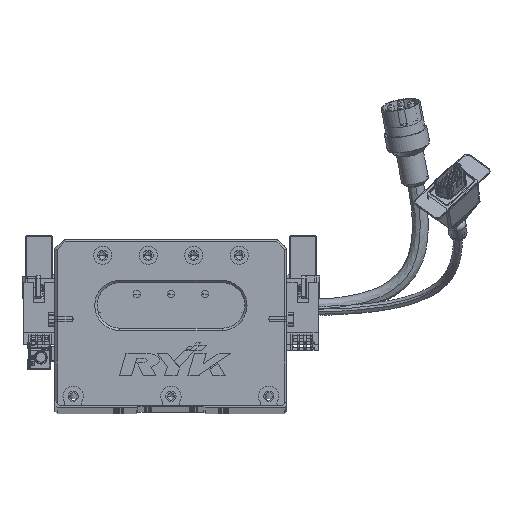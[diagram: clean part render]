
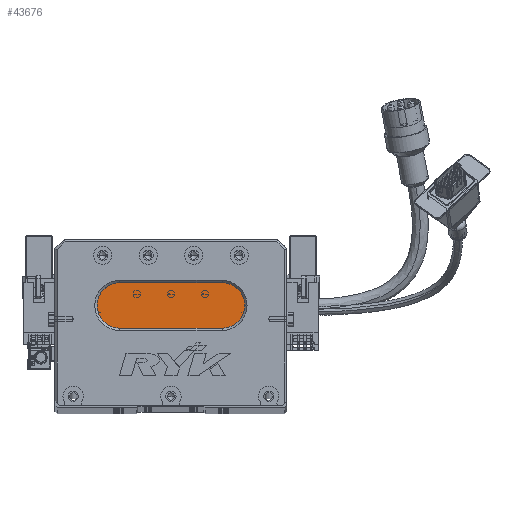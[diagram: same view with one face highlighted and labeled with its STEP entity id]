
A CAD part, top view. The second image highlights one B-rep face of the part: STEP entity #43676.
In plain terms, the highlighted planar face has unit normal (0, 0, 1) as drawn and (0, 0, -1) by its records, which use the part's own axes.
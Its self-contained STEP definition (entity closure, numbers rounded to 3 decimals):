
#57 = DIRECTION ( 'NONE',  ( 0., 0., -1. ) ) ;
#1367 = DIRECTION ( 'NONE',  ( 0., 0., -1. ) ) ;
#2190 = DIRECTION ( 'NONE',  ( 0., 0., -1. ) ) ;
#3152 = CIRCLE ( 'NONE', #38461, 10. ) ;
#3453 = ORIENTED_EDGE ( 'NONE', *, *, #75081, .T. ) ;
#4749 = VERTEX_POINT ( 'NONE', #50511 ) ;
#4889 = CARTESIAN_POINT ( 'NONE',  ( 73.5, 34., 13. ) ) ;
#5317 = LINE ( 'NONE', #4889, #45319 ) ;
#6122 = CARTESIAN_POINT ( 'NONE',  ( 73.5, 44., 13. ) ) ;
#8084 = EDGE_CURVE ( 'NONE', #13516, #59550, #60887, .T. ) ;
#10746 = VECTOR ( 'NONE', #66909, 1000. ) ;
#13382 = DIRECTION ( 'NONE',  ( -1., 0., 0. ) ) ;
#13516 = VERTEX_POINT ( 'NONE', #51976 ) ;
#14069 = FACE_OUTER_BOUND ( 'NONE', #58029, .T. ) ;
#15427 = CARTESIAN_POINT ( 'NONE',  ( 73.5, 54., 13. ) ) ;
#21553 = CARTESIAN_POINT ( 'NONE',  ( 73.5, 34., 13. ) ) ;
#22433 = ORIENTED_EDGE ( 'NONE', *, *, #8084, .T. ) ;
#26677 = EDGE_CURVE ( 'NONE', #61990, #69556, #66296, .T. ) ;
#26940 = AXIS2_PLACEMENT_3D ( 'NONE', #39680, #39936, #51395 ) ;
#30089 = CARTESIAN_POINT ( 'NONE',  ( 28.5, 44., 13. ) ) ;
#35068 = DIRECTION ( 'NONE',  ( -1., 0., 0. ) ) ;
#38461 = AXIS2_PLACEMENT_3D ( 'NONE', #30089, #1367, #71674 ) ;
#39680 = CARTESIAN_POINT ( 'NONE',  ( 28.5, 44., 13. ) ) ;
#39936 = DIRECTION ( 'NONE',  ( 0., 0., -1. ) ) ;
#42549 = CARTESIAN_POINT ( 'NONE',  ( 73.5, 44., 13. ) ) ;
#43676 = ADVANCED_FACE ( 'NONE', ( #14069 ), #54002, .T. ) ;
#45319 = VECTOR ( 'NONE', #50891, 1000. ) ;
#50511 = CARTESIAN_POINT ( 'NONE',  ( 28.5, 34., 13. ) ) ;
#50891 = DIRECTION ( 'NONE',  ( -1., 0., 0. ) ) ;
#51395 = DIRECTION ( 'NONE',  ( -1., 0., 0. ) ) ;
#51976 = CARTESIAN_POINT ( 'NONE',  ( 73.5, 54., 13. ) ) ;
#53187 = CARTESIAN_POINT ( 'NONE',  ( 28.5, 54., 13. ) ) ;
#54002 = PLANE ( 'NONE',  #65220 ) ;
#57979 = ORIENTED_EDGE ( 'NONE', *, *, #74673, .T. ) ;
#58029 = EDGE_LOOP ( 'NONE', ( #22433, #57979, #61758, #67826, #3453 ) ) ;
#59550 = VERTEX_POINT ( 'NONE', #21553 ) ;
#60887 = CIRCLE ( 'NONE', #65249, 10. ) ;
#61758 = ORIENTED_EDGE ( 'NONE', *, *, #62206, .T. ) ;
#61990 = VERTEX_POINT ( 'NONE', #68881 ) ;
#62206 = EDGE_CURVE ( 'NONE', #4749, #61990, #3152, .T. ) ;
#64331 = LINE ( 'NONE', #15427, #10746 ) ;
#65220 = AXIS2_PLACEMENT_3D ( 'NONE', #42549, #2190, #13382 ) ;
#65249 = AXIS2_PLACEMENT_3D ( 'NONE', #6122, #57, #35068 ) ;
#66296 = CIRCLE ( 'NONE', #26940, 10. ) ;
#66909 = DIRECTION ( 'NONE',  ( 1., 0., 0. ) ) ;
#67826 = ORIENTED_EDGE ( 'NONE', *, *, #26677, .T. ) ;
#68881 = CARTESIAN_POINT ( 'NONE',  ( 18.5, 44., 13. ) ) ;
#69556 = VERTEX_POINT ( 'NONE', #53187 ) ;
#71674 = DIRECTION ( 'NONE',  ( -1., 0., 0. ) ) ;
#74673 = EDGE_CURVE ( 'NONE', #59550, #4749, #5317, .T. ) ;
#75081 = EDGE_CURVE ( 'NONE', #69556, #13516, #64331, .T. ) ;
